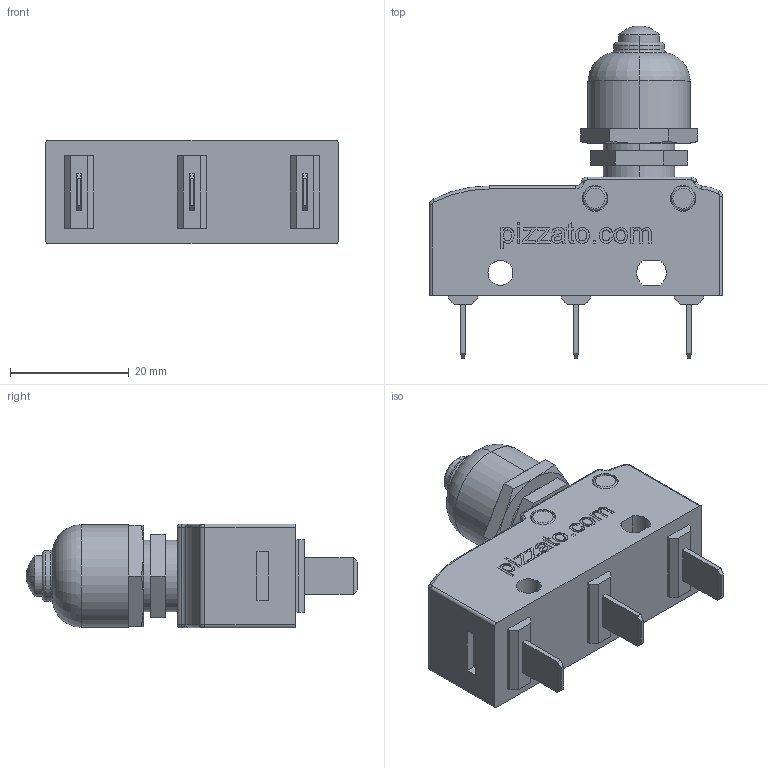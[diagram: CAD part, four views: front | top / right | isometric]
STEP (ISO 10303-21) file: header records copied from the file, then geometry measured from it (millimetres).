
FILE_DESCRIPTION (( 'STEP AP203' ), '1' );
FILE_NAME ('Pizzato_MK_HxxD13.STEP', '2009-02-13T16:05:29', ( 'mario' ), ( '' ), 'SwSTEP 2.0', 'SolidWorks 2009', '' );
FILE_SCHEMA (( 'CONFIG_CONTROL_DESIGN' ));
Length unit declared in the file: millimetre
Products named in the file (6): Pizzato_Pulsante_MK13; Pizzato_Dado_128_128; Pizzato_dado_72_72; Pizzato_MK_HxxD13; Pizzato_Custodia_MK_MKH_06-17; Pizzato_Supporto MK13
Assembly tree (5 placements, depth 2):
  Pizzato_MK_HxxD13
    Pizzato_Supporto MK13
    Pizzato_dado_72_72
    Pizzato_Pulsante_MK13
    Pizzato_Custodia_MK_MKH_06-17
    Pizzato_Dado_128_128
Bounding box: 49.2 x 55.8 x 17.4 mm (x, y, z)
Volume: 19923 mm3; surface area: 8145.3 mm2
Topology: 5 solids, 5 shells, 481 faces, 1206 edges, 785 vertices
Faces by surface type: plane 292, cylinder 80, bspline 69, torus 32, cone 6, sphere 2
Entity records: 18284 total; most frequent: CARTESIAN_POINT 6413, ORIENTED_EDGE 2412, DIRECTION 2122, EDGE_CURVE 1206, VECTOR 830, LINE 830, VERTEX_POINT 785, AXIS2_PLACEMENT_3D 646
